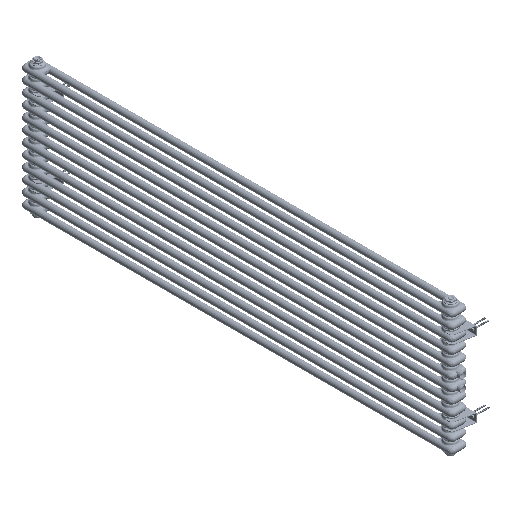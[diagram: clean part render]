
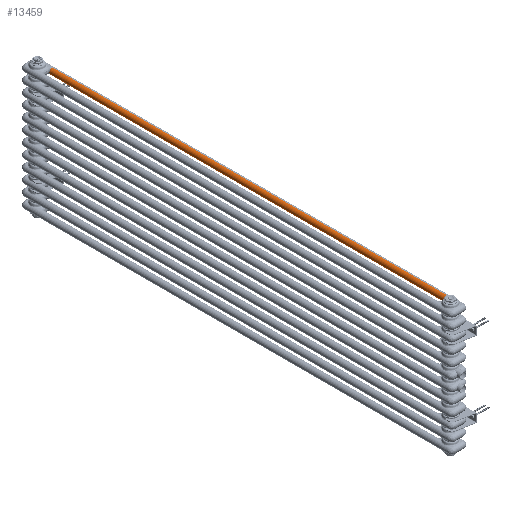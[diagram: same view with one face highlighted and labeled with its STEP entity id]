
A CAD part, isometric view. The second image highlights one B-rep face of the part: STEP entity #13459.
In plain terms, the highlighted cylindrical face has radius 12.5 mm (diameter 25 mm), a partial arc.
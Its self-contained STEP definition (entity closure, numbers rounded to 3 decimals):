
#6244=CYLINDRICAL_SURFACE('',#68459,12.5);
#7867=LINE('',#120484,#10466);
#7872=LINE('',#120557,#10471);
#10466=VECTOR('',#77132,1.);
#10471=VECTOR('',#77139,1.);
#13459=ADVANCED_FACE('',(#18540),#6244,.T.);
#18540=FACE_OUTER_BOUND('',#22783,.T.);
#22783=EDGE_LOOP('',(#30092,#30093,#30094,#30095,#30096,#30097));
#30092=ORIENTED_EDGE('',*,*,#54769,.F.);
#30093=ORIENTED_EDGE('',*,*,#54770,.F.);
#30094=ORIENTED_EDGE('',*,*,#54771,.F.);
#30095=ORIENTED_EDGE('',*,*,#54761,.F.);
#30096=ORIENTED_EDGE('',*,*,#54748,.T.);
#30097=ORIENTED_EDGE('',*,*,#54746,.T.);
#47877=VERTEX_POINT('',#120161);
#47878=VERTEX_POINT('',#120163);
#47879=VERTEX_POINT('',#120167);
#47883=VERTEX_POINT('',#120485);
#47890=VERTEX_POINT('',#120556);
#47891=VERTEX_POINT('',#120560);
#54746=EDGE_CURVE('',#47878,#47877,#64046,.T.);
#54748=EDGE_CURVE('',#47879,#47878,#64048,.T.);
#54761=EDGE_CURVE('',#47879,#47883,#7867,.T.);
#54769=EDGE_CURVE('',#47890,#47877,#7872,.T.);
#54770=EDGE_CURVE('',#47891,#47890,#64056,.T.);
#54771=EDGE_CURVE('',#47883,#47891,#64057,.T.);
#64046=CIRCLE('',#68440,12.5);
#64048=CIRCLE('',#68443,12.5);
#64056=CIRCLE('',#68457,12.5);
#64057=CIRCLE('',#68458,12.5);
#68440=AXIS2_PLACEMENT_3D('',#120162,#77098,#77099);
#68443=AXIS2_PLACEMENT_3D('',#120166,#77104,#77105);
#68457=AXIS2_PLACEMENT_3D('',#120559,#77142,#77143);
#68458=AXIS2_PLACEMENT_3D('',#120561,#77144,#77145);
#68459=AXIS2_PLACEMENT_3D('',#120562,#77146,#77147);
#77098=DIRECTION('',(0.,1.,0.));
#77099=DIRECTION('',(-1.,0.,0.));
#77104=DIRECTION('',(0.,1.,0.));
#77105=DIRECTION('',(0.,0.,-1.));
#77132=DIRECTION('',(0.,1.,0.));
#77139=DIRECTION('',(0.,-1.,0.));
#77142=DIRECTION('',(0.,1.,0.));
#77143=DIRECTION('',(-1.,0.,0.));
#77144=DIRECTION('',(0.,1.,0.));
#77145=DIRECTION('',(0.,0.,-1.));
#77146=DIRECTION('',(0.,1.,0.));
#77147=DIRECTION('',(0.,0.,1.));
#120161=CARTESIAN_POINT('',(57.5,79.5,995.));
#120162=CARTESIAN_POINT('',(57.5,79.5,982.5));
#120163=CARTESIAN_POINT('',(45.,79.5,982.5));
#120166=CARTESIAN_POINT('',(57.5,79.5,982.5));
#120167=CARTESIAN_POINT('',(57.5,79.5,970.));
#120484=CARTESIAN_POINT('',(57.5,79.5,970.));
#120485=CARTESIAN_POINT('',(57.5,1723.5,970.));
#120556=CARTESIAN_POINT('',(57.5,1723.5,995.));
#120557=CARTESIAN_POINT('',(57.5,523.5,995.));
#120559=CARTESIAN_POINT('',(57.5,1723.5,982.5));
#120560=CARTESIAN_POINT('',(45.,1723.5,982.5));
#120561=CARTESIAN_POINT('',(57.5,1723.5,982.5));
#120562=CARTESIAN_POINT('',(57.5,79.5,982.5));
